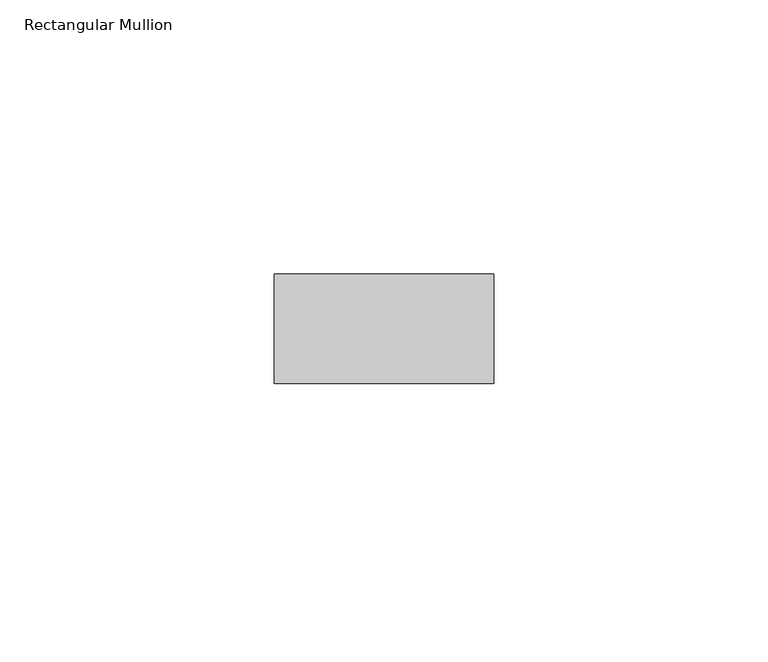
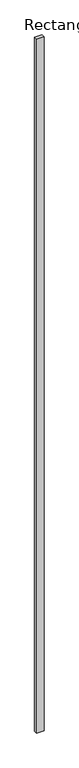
"""IFC4 building model written with IfcOpenShell, lengths in millimetres: member geometry, Rectangular Mullion : RIPA 4x2 cm."""

from ifc_helpers import new_model, si_unit, frame, origin, place, context, project, spatial, polyline, outline, extrude, source, transform, mapped, element, save


def rectangular_mullion_a21c3188(model_context):
    return source(origin(), model_context, "Body", "SweptSolid", [
        extrude(outline(polyline([(20.0, 0.0), (20.0, -20.0), (-20.0, -20.0), (-20.0, 0.0), (20.0, 0.0)])), frame((0.0, 0.0, -4091.7526673), z_axis=(0.0, 0.0, 1.0), x_axis=(1.0, 0.0, 0.0)), (0.0, 0.0, 1.0), 4091.7526673),
    ])


if __name__ == "__main__":
    model = new_model("IFC4")
    model_context = context("Model", 3, world=origin())
    ifc_project = project(units=[si_unit("LENGTHUNIT", "METRE", prefix="MILLI")], contexts=[model_context])
    site = spatial("IfcSite", under=ifc_project)
    building = spatial("IfcBuilding", under=site)
    placement = place(None, origin())
    rectangular_mullion_shape = rectangular_mullion_a21c3188(model_context)
    element("IfcMember", 1, ObjectType="Rectangular Mullion : RIPA 4x2 cm", at=placement, inside=building, context=model_context, shape_type="MappedRepresentation", body=[
        mapped(rectangular_mullion_shape, transform((0.0, 0.0, 0.0), x_axis=(1.0, 0.0, 0.0), y_axis=(0.0, 1.0, 0.0), z_axis=(0.0, 0.0, 1.0))),
    ])
    save(model, "model.ifc")
